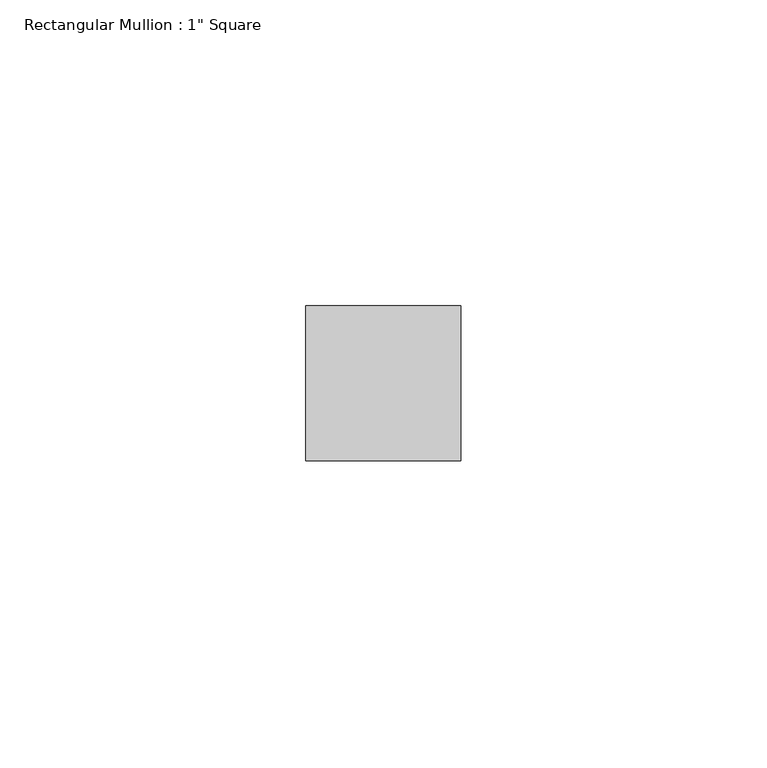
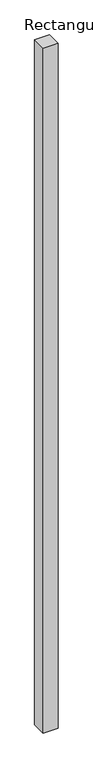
"""IFC4 building model written with IfcOpenShell, lengths in millimetres: member geometry."""

from ifc_helpers import new_model, si_unit, frame, origin, place, context, project, spatial, polyline, outline, extrude, source, transform, mapped, element, save


def member_40ce1a5c(model_context):
    return source(origin(), model_context, "Body", "SweptSolid", [
        extrude(outline(polyline([(12.7, 12.7), (12.7, -12.7), (-12.7, -12.7), (-12.7, 12.7), (12.7, 12.7)])), frame((0.0, 0.0, -1241.425), z_axis=(0.0, 0.0, 1.0), x_axis=(1.0, 0.0, 0.0)), (0.0, 0.0, 1.0), 1241.425),
    ])


if __name__ == "__main__":
    model = new_model("IFC4")
    model_context = context("Model", 3, world=origin())
    ifc_project = project(units=[si_unit("LENGTHUNIT", "METRE", prefix="MILLI")], contexts=[model_context])
    site = spatial("IfcSite", under=ifc_project)
    building = spatial("IfcBuilding", under=site)
    placement = place(None, origin())
    member_shape = member_40ce1a5c(model_context)
    element("IfcMember", 1, ObjectType="Rectangular Mullion : 1\" Square", at=placement, inside=building, context=model_context, shape_type="MappedRepresentation", body=[
        mapped(member_shape, transform((0.0, 0.0, 0.0), x_axis=(1.0, 0.0, 0.0), y_axis=(0.0, 1.0, 0.0), z_axis=(0.0, 0.0, 1.0))),
    ])
    save(model, "model.ifc")
